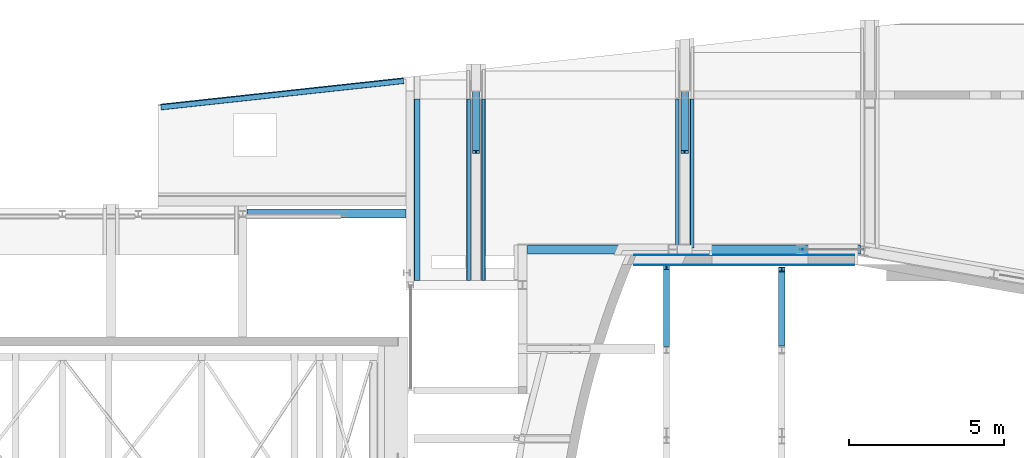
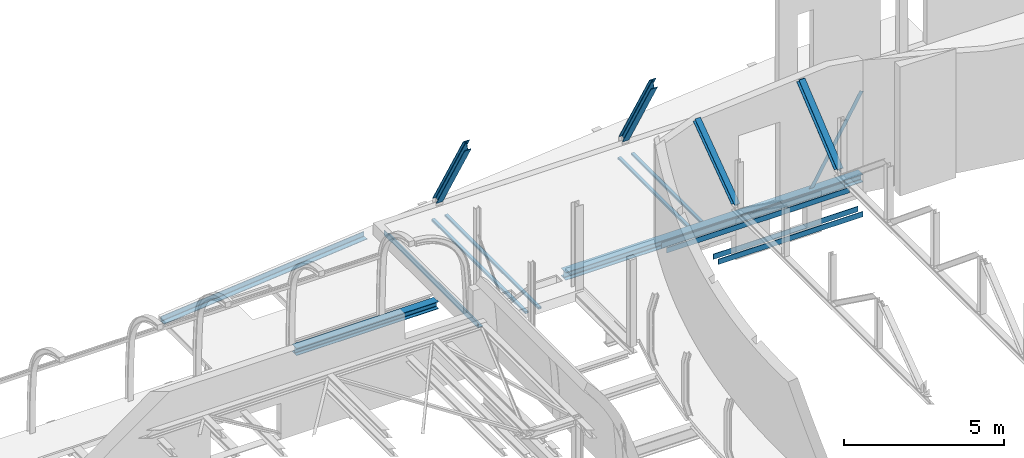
# One storey, part 24 of 38: 17 beams.
"""IFC2X3 building model written with IfcOpenShell, lengths in millimetres."""

from ifc_helpers import new_model, entity, si_unit, converted_unit, derived_unit, direction, frame, frame_2d, origin, origin_2d_with_axis, place, context, subcontext, project, spatial, polyline, circle_curve, parameter, trimmed, segment, composite_curve, rectangle, i_section, outline, extrude, clip, halfspace, material, type_object, element, save


model = new_model("IFC2X3")

# Units and contexts
model_context = context("Model", 3, precision=0.01, world=origin(), true_north=direction((6.12303176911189e-17, 1.0)))
body_context = subcontext(model_context, "Body", "Model", "MODEL_VIEW")
ifc_project = project(units=[si_unit("LENGTHUNIT", "METRE", prefix="MILLI"), si_unit("AREAUNIT", "SQUARE_METRE", prefix="MILLI"), si_unit("VOLUMEUNIT", "CUBIC_METRE"), converted_unit("PLANEANGLEUNIT", "DEGREE", entity("IfcRatioMeasure", 0.0174532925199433), si_unit("PLANEANGLEUNIT", "RADIAN"), dimensions=[0, 0, 0, 0, 0, 0, 0]), si_unit("MASSUNIT", "GRAM", prefix="KILO"), derived_unit("MASSDENSITYUNIT", [(si_unit("MASSUNIT", "GRAM", prefix="KILO"), 1), (si_unit("LENGTHUNIT", "METRE"), -3)]), derived_unit("MOMENTOFINERTIAUNIT", [(si_unit("LENGTHUNIT", "METRE"), 4)]), si_unit("TIMEUNIT", "SECOND"), si_unit("FREQUENCYUNIT", "HERTZ"), si_unit("THERMODYNAMICTEMPERATUREUNIT", "DEGREE_CELSIUS"), derived_unit("THERMALTRANSMITTANCEUNIT", [(si_unit("MASSUNIT", "GRAM", prefix="KILO"), 1), (si_unit("THERMODYNAMICTEMPERATUREUNIT", "KELVIN"), -1), (si_unit("TIMEUNIT", "SECOND"), -3)]), derived_unit("VOLUMETRICFLOWRATEUNIT", [(si_unit("LENGTHUNIT", "METRE"), 3), (si_unit("TIMEUNIT", "SECOND"), -1)]), si_unit("ELECTRICCURRENTUNIT", "AMPERE"), si_unit("ELECTRICVOLTAGEUNIT", "VOLT"), si_unit("POWERUNIT", "WATT"), si_unit("FORCEUNIT", "NEWTON", prefix="KILO"), si_unit("ILLUMINANCEUNIT", "LUX"), si_unit("LUMINOUSFLUXUNIT", "LUMEN"), si_unit("LUMINOUSINTENSITYUNIT", "CANDELA"), derived_unit("USERDEFINED", [(si_unit("MASSUNIT", "GRAM", prefix="KILO"), -1), (si_unit("LENGTHUNIT", "METRE"), -2), (si_unit("TIMEUNIT", "SECOND"), 3), (si_unit("LUMINOUSFLUXUNIT", "LUMEN"), 1)]), derived_unit("LINEARVELOCITYUNIT", [(si_unit("LENGTHUNIT", "METRE"), 1), (si_unit("TIMEUNIT", "SECOND"), -1)]), si_unit("PRESSUREUNIT", "PASCAL"), derived_unit("USERDEFINED", [(si_unit("LENGTHUNIT", "METRE"), -2), (si_unit("MASSUNIT", "GRAM", prefix="KILO"), 1), (si_unit("TIMEUNIT", "SECOND"), -2)]), derived_unit("LINEARFORCEUNIT", [(si_unit("MASSUNIT", "GRAM", prefix="KILO"), 1), (si_unit("LENGTHUNIT", "METRE"), 1), (si_unit("TIMEUNIT", "SECOND"), -2), (si_unit("LENGTHUNIT", "METRE"), -1)]), derived_unit("PLANARFORCEUNIT", [(si_unit("MASSUNIT", "GRAM", prefix="KILO"), 1), (si_unit("LENGTHUNIT", "METRE"), 1), (si_unit("TIMEUNIT", "SECOND"), -2), (si_unit("LENGTHUNIT", "METRE"), -2)])], contexts=[model_context])

# Site, building, storey
site_placement = place(None, origin())
site = spatial("IfcSite", under=ifc_project, at=site_placement, Name="Theater aan de Parade", CompositionType="ELEMENT")
building_placement = place(site_placement, origin())
building = spatial("IfcBuilding", under=site, at=building_placement, Name="Theater aan de Parade", CompositionType="ELEMENT")
storey_placement = place(building_placement, frame((0.0, 0.0, 12480.0)))
storey = spatial("IfcBuildingStorey", under=building, at=storey_placement, Name="03 derde verdieping", CompositionType="ELEMENT", Elevation=12480.0)

# Beams
ifc_material_1 = material(Name="00_PBT_MAT_staal_S355")
beam_type_1 = type_object("IfcBeamType", Name="28_PBT_SF_staal_H-profiel:S355_HE220B", PredefinedType="NOTDEFINED")
beam_1_placement = place(storey_placement, frame((49335.0, 41150.0, 2690.0), z_axis=(0.0, -0.636264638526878, 0.771470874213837), x_axis=(0.0, 0.771470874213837, 0.636264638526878)))
element("IfcBeam", 1, at=beam_1_placement, inside=storey, type_object=beam_type_1, material=ifc_material_1, Name="28_PBT_SF_staal_H-profiel:S355_HE220B", ObjectType="28_PBT_SF_staal_H-profiel:S355_HE220B", context=body_context, shape_type="Clipping", body=[
    clip(clip(clip(extrude(outline(composite_curve([segment(polyline([(-110.0, -94.0), (-110.0, -110.0)]), True, "CONTINUOUS"), segment(polyline([(-110.0, -110.0), (110.0, -110.0)]), True, "CONTINUOUS"), segment(polyline([(110.0, -110.0), (110.0, -94.0)]), True, "CONTINUOUS"), segment(polyline([(110.0, -94.0), (22.7500000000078, -94.0)]), True, "CONTINUOUS"), segment(trimmed(circle_curve(frame_2d((22.7500000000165, -76.0), x_axis=(-1.0, 0.0)), 18.0000000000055), [parameter(0.0)], [parameter(89.9999999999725)], True, "PARAMETER"), False, "CONTINUOUS"), segment(polyline([(4.75000000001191, -76.0), (4.75000000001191, 76.0)]), True, "CONTINUOUS"), segment(trimmed(circle_curve(frame_2d((22.7500000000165, 76.0), x_axis=(0.0, 1.0)), 18.0000000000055), [parameter(0.0)], [parameter(89.9999999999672)], True, "PARAMETER"), False, "CONTINUOUS"), segment(polyline([(22.7500000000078, 94.0), (110.0, 94.0)]), True, "CONTINUOUS"), segment(polyline([(110.0, 94.0), (110.0, 110.0)]), True, "CONTINUOUS"), segment(polyline([(110.0, 110.0), (-110.0, 110.0)]), True, "CONTINUOUS"), segment(polyline([(-110.0, 110.0), (-110.0, 94.0)]), True, "CONTINUOUS"), segment(polyline([(-110.0, 94.0), (-22.7499999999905, 94.0)]), True, "CONTINUOUS"), segment(trimmed(circle_curve(frame_2d((-22.7499999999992, 76.0), x_axis=(1.0, 0.0)), 18.0000000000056), [parameter(0.0)], [parameter(89.9999999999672)], True, "PARAMETER"), False, "CONTINUOUS"), segment(polyline([(-4.74999999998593, 76.0), (-4.74999999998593, -76.0)]), True, "CONTINUOUS"), segment(trimmed(circle_curve(frame_2d((-22.7499999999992, -76.0), x_axis=(0.0, -1.0)), 18.0000000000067), [parameter(0.0)], [parameter(89.9999999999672)], True, "PARAMETER"), False, "CONTINUOUS"), segment(polyline([(-22.7499999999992, -94.0), (-110.0, -94.0)]), True, "CONTINUOUS")], self_intersect=False)), frame((179.148262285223, 0.0, 0.0), z_axis=(-1.0, 0.0, 0.0), x_axis=(0.0, 1.0, 0.0)), (0.0, 0.0, -1.0), 3195.32442237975), halfspace(frame((-13652.0404014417, -130.0, 11427.9240420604), z_axis=(-0.636264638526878, 0.0, -0.771470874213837), x_axis=(0.771470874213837, 0.0, -0.636264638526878)), False)), halfspace(frame((161.778237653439, 130.0, -0.303021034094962), z_axis=(-0.771470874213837, 0.0, 0.636264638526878), x_axis=(0.636264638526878, 0.0, 0.771470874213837)), False)), halfspace(frame((-14307.9859475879, 170.0, 14678.0207594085), z_axis=(0.636264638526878, 0.0, 0.771470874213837), x_axis=(0.771470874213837, 0.0, -0.636264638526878)), False)),
])
beam_type_2 = type_object("IfcBeamType", Name="28_PBT_SF_staal_H-profiel (void):S355_HE300B", PredefinedType="NOTDEFINED")
beam_2_placement = place(storey_placement, frame((40963.8581275, 44395.0, 0.0)))
element("IfcBeam", 2, at=beam_2_placement, inside=storey, type_object=beam_type_2, material=ifc_material_1, Name="28_PBT_SF_staal_H-profiel (void):S355_HE300B", ObjectType="28_PBT_SF_staal_H-profiel (void):S355_HE300B", context=body_context, shape_type="SweptSolid", body=[
    extrude(i_section(OverallWidth=300.000000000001, OverallDepth=300.000000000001, WebThickness=10.9999999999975, FlangeThickness=18.9999999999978, FilletRadius=27.0000000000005, at=frame_2d((0.0, 0.0), x_axis=(0.0, 1.0))), frame((162.699999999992, 0.0, -115.0), z_axis=(1.0, 0.0, 0.0), x_axis=(0.0, 0.0, -1.0)), (0.0, 0.0, 1.0), 10752.6573067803),
])
beam_type_3 = type_object("IfcBeamType", Name="28_PBT_SF_staal_H-profiel (void):S355_HE280B", PredefinedType="NOTDEFINED")
beam_3_placement = place(storey_placement, frame((32073.0224747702, 45558.3619328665, 0.0)))
element("IfcBeam", 3, at=beam_3_placement, inside=storey, type_object=beam_type_3, material=ifc_material_1, Name="28_PBT_SF_staal_H-profiel (void):S355_HE280B", ObjectType="28_PBT_SF_staal_H-profiel (void):S355_HE280B", context=body_context, shape_type="SweptSolid", body=[
    extrude(outline(composite_curve([segment(polyline([(122.0, -140.0), (140.0, -140.0)]), True, "CONTINUOUS"), segment(polyline([(140.0, -140.0), (140.0, 140.0)]), True, "CONTINUOUS"), segment(polyline([(140.0, 140.0), (122.0, 140.0)]), True, "CONTINUOUS"), segment(polyline([(122.0, 140.0), (122.0, 29.2500000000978)]), True, "CONTINUOUS"), segment(trimmed(circle_curve(frame_2d((98.0, 29.2500000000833), x_axis=(1.0, 0.0)), 24.0000000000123), [parameter(270.000000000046)], [parameter(0.0)], True, "PARAMETER"), False, "CONTINUOUS"), segment(polyline([(98.0, 5.25000000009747), (-98.0, 5.24999999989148)]), True, "CONTINUOUS"), segment(trimmed(circle_curve(frame_2d((-98.0, 29.2499999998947), x_axis=(0.0, -1.0)), 24.0000000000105), [parameter(270.000000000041)], [parameter(0.0)], True, "PARAMETER"), False, "CONTINUOUS"), segment(polyline([(-122.0, 29.2499999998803), (-122.0, 140.0)]), True, "CONTINUOUS"), segment(polyline([(-122.0, 140.0), (-140.0, 140.0)]), True, "CONTINUOUS"), segment(polyline([(-140.0, 140.0), (-140.0, -140.0)]), True, "CONTINUOUS"), segment(polyline([(-140.0, -140.0), (-122.0, -140.0)]), True, "CONTINUOUS"), segment(polyline([(-122.0, -140.0), (-122.0, -29.2500000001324)]), True, "CONTINUOUS"), segment(trimmed(circle_curve(frame_2d((-98.0, -29.250000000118), x_axis=(-1.0, 0.0)), 24.0000000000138), [parameter(270.000000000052)], [parameter(0.0)], True, "PARAMETER"), False, "CONTINUOUS"), segment(polyline([(-98.0, -5.2500000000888), (98.0, -5.24999999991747)]), True, "CONTINUOUS"), segment(trimmed(circle_curve(frame_2d((98.0, -29.2499999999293), x_axis=(0.0, 1.0)), 24.0000000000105), [parameter(270.000000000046)], [parameter(0.0)], True, "PARAMETER"), False, "CONTINUOUS"), segment(polyline([(122.0, -29.2499999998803), (122.0, -140.0)]), True, "CONTINUOUS")], self_intersect=False)), frame((0.0, 0.0, -545.0), z_axis=(1.0, 0.0, 0.0), x_axis=(0.0, 0.0, -1.0)), (0.0, 0.0, 1.0), 5130.8356993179),
])
beam_type_4 = type_object("IfcBeamType", Name="28_PBT_SF_staal_L-profiel:S355_L200x200x20", PredefinedType="NOTDEFINED")
beam_4_placement = place(storey_placement, frame((37510.6581300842, 43400.0, 0.0), z_axis=(0.0, 0.0, 1.0), x_axis=(0.0, 1.0, 0.0)))
element("IfcBeam", 4, at=beam_4_placement, inside=storey, type_object=beam_type_4, material=ifc_material_1, Name="28_PBT_SF_staal_L-profiel:S355_L200x200x20", ObjectType="28_PBT_SF_staal_L-profiel:S355_L200x200x20", context=body_context, shape_type="SweptSolid", body=[
    extrude(outline(composite_curve([segment(polyline([(64.5555555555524, -124.444444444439), (75.5555555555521, -124.444444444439)]), True, "CONTINUOUS"), segment(polyline([(75.5555555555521, -124.444444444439), (75.5555555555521, 75.5555555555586)]), True, "CONTINUOUS"), segment(polyline([(75.5555555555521, 75.5555555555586), (-124.444444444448, 75.5555555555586)]), True, "CONTINUOUS"), segment(polyline([(-124.444444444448, 75.5555555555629), (-124.444444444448, 64.5555555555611)]), True, "CONTINUOUS"), segment(trimmed(circle_curve(frame_2d((-115.44444444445, 64.5555555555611), x_axis=(-1.0, 0.0)), 8.99999999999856), [parameter(0.0)], [parameter(90.0000000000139)], True, "PARAMETER"), True, "CONTINUOUS"), segment(polyline([(-115.444444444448, 55.5555555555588), (37.5555555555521, 55.5555555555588)]), True, "CONTINUOUS"), segment(trimmed(circle_curve(frame_2d((37.5555555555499, 37.5555555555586), x_axis=(0.0, 1.0)), 18.0000000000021), [parameter(270.000000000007)], [parameter(0.0)], True, "PARAMETER"), False, "CONTINUOUS"), segment(polyline([(55.5555555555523, 37.5555555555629), (55.5555555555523, -115.444444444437)]), True, "CONTINUOUS"), segment(trimmed(circle_curve(frame_2d((64.5555555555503, -115.444444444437), x_axis=(-1.0, 0.0)), 8.99999999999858), [parameter(0.0)], [parameter(90.0000000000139)], True, "PARAMETER"), True, "CONTINUOUS")], self_intersect=False)), frame((0.0, -18.7555555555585, -209.444444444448), z_axis=(1.0, 0.0, 0.0), x_axis=(0.0, 0.0, -1.0)), (0.0, 0.0, 1.0), 5861.99799087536),
])
beam_5_placement = place(storey_placement, frame((29283.1817501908, 49039.5940127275, 0.0), z_axis=(0.0, 0.0, 1.0), x_axis=(0.994164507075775, 0.107874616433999, 0.0)))
element("IfcBeam", 5, at=beam_5_placement, inside=storey, type_object=beam_type_4, material=ifc_material_1, Name="28_PBT_SF_staal_L-profiel:S355_L200x200x20", ObjectType="28_PBT_SF_staal_L-profiel:S355_L200x200x20", context=body_context, shape_type="SweptSolid", body=[
    extrude(outline(composite_curve([segment(polyline([(64.5555555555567, -124.444444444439), (75.5555555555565, -124.444444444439)]), True, "CONTINUOUS"), segment(polyline([(75.5555555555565, -124.444444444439), (75.5555555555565, 75.5555555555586)]), True, "CONTINUOUS"), segment(polyline([(75.5555555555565, 75.5555555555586), (-124.444444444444, 75.5555555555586)]), True, "CONTINUOUS"), segment(polyline([(-124.444444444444, 75.5555555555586), (-124.444444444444, 64.5555555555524)]), True, "CONTINUOUS"), segment(trimmed(circle_curve(frame_2d((-115.444444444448, 64.5555555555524), x_axis=(-1.0, 0.0)), 8.99999999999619), [parameter(0.0)], [parameter(90.0000000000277)], True, "PARAMETER"), True, "CONTINUOUS"), segment(polyline([(-115.444444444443, 55.5555555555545), (37.5555555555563, 55.5555555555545)]), True, "CONTINUOUS"), segment(trimmed(circle_curve(frame_2d((37.5555555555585, 37.5555555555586), x_axis=(0.0, 1.0)), 17.9999999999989), [parameter(269.999999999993)], [parameter(0.0)], True, "PARAMETER"), False, "CONTINUOUS"), segment(polyline([(55.5555555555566, 37.5555555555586), (55.5555555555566, -115.444444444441)]), True, "CONTINUOUS"), segment(trimmed(circle_curve(frame_2d((64.5555555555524, -115.444444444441), x_axis=(-1.0, 0.0)), 8.99999999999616), [parameter(0.0)], [parameter(90.0000000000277)], True, "PARAMETER"), True, "CONTINUOUS")], self_intersect=False)), frame((0.0, -18.7555555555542, -549.444444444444), z_axis=(1.0, 0.0, 0.0), x_axis=(0.0, 0.0, -1.0)), (0.0, 0.0, 1.0), 7880.0),
])
ifc_material_2 = material(Name="00_PBT_MAT_staal_S235")
beam_type_5 = type_object("IfcBeamType", Name="28_PBT_SF_staal_koker:S235_K80x120x6.3", PredefinedType="NOTDEFINED")
beam_6_placement = place(storey_placement, frame((45899.0610079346, 44441.9749304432, 0.0), z_axis=(0.0, 0.0, 1.0), x_axis=(0.0, 1.0, 0.0)))
element("IfcBeam", 6, at=beam_6_placement, inside=storey, type_object=beam_type_5, material=ifc_material_2, Name="28_PBT_SF_staal_koker:S235_K80x120x6.3", ObjectType="28_PBT_SF_staal_koker:S235_K80x120x6.3", context=body_context, shape_type="SweptSolid", body=[
    extrude(outline(composite_curve([segment(trimmed(circle_curve(frame_2d((-50.5500000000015, -30.5499999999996), x_axis=(1.0, 0.0)), 9.45), [parameter(180.0)], [parameter(270.0)], True, "PARAMETER"), True, "CONTINUOUS"), segment(polyline([(-50.5500000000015, -40.0), (50.5500000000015, -40.0)]), True, "CONTINUOUS"), segment(trimmed(circle_curve(frame_2d((50.5500000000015, -30.5499999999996), x_axis=(1.0, 0.0)), 9.45), [parameter(270.0)], [parameter(0.0)], True, "PARAMETER"), True, "CONTINUOUS"), segment(polyline([(60.0, -30.5499999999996), (60.0, 30.5499999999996)]), True, "CONTINUOUS"), segment(trimmed(circle_curve(frame_2d((50.5500000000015, 30.5499999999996), x_axis=(1.0, 0.0)), 9.45), [parameter(3.56222124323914e-13)], [parameter(90.0000000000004)], True, "PARAMETER"), True, "CONTINUOUS"), segment(polyline([(50.5500000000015, 40.0), (-50.5500000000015, 40.0)]), True, "CONTINUOUS"), segment(trimmed(circle_curve(frame_2d((-50.5500000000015, 30.5499999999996), x_axis=(1.0, 0.0)), 9.45), [parameter(90.0000000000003)], [parameter(180.0)], True, "PARAMETER"), True, "CONTINUOUS"), segment(polyline([(-60.0, 30.5499999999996), (-60.0, -30.5499999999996)]), True, "CONTINUOUS")], self_intersect=False), holes=[composite_curve([segment(trimmed(circle_curve(frame_2d((47.3999999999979, 27.4000000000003), x_axis=(1.0, 0.0)), 6.3), [parameter(5.08888749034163e-14)], [parameter(90.0000000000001)], True, "PARAMETER"), False, "CONTINUOUS"), segment(polyline([(53.6999999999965, 27.4000000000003), (53.6999999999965, -27.4000000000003)]), True, "CONTINUOUS"), segment(trimmed(circle_curve(frame_2d((47.3999999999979, -27.4000000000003), x_axis=(1.0, 0.0)), 6.3), [parameter(269.999999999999)], [parameter(360.0)], True, "PARAMETER"), False, "CONTINUOUS"), segment(polyline([(47.3999999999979, -33.700000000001), (-47.3999999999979, -33.700000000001)]), True, "CONTINUOUS"), segment(trimmed(circle_curve(frame_2d((-47.3999999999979, -27.4000000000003), x_axis=(1.0, 0.0)), 6.3), [parameter(180.0)], [parameter(270.0)], True, "PARAMETER"), False, "CONTINUOUS"), segment(polyline([(-53.6999999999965, -27.4000000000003), (-53.6999999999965, 27.4000000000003)]), True, "CONTINUOUS"), segment(trimmed(circle_curve(frame_2d((-47.3999999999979, 27.4000000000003), x_axis=(1.0, 0.0)), 6.3), [parameter(89.9999999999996)], [parameter(180.0)], True, "PARAMETER"), False, "CONTINUOUS"), segment(polyline([(-47.3999999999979, 33.6999999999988), (47.3999999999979, 33.6999999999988)]), True, "CONTINUOUS")], self_intersect=False)]), frame((0.0, -60.0, -305.0), z_axis=(1.0, 0.0, 0.0), x_axis=(0.0, 1.0, 0.0)), (0.0, 0.0, 1.0), 4820.00000000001),
])
beam_7_placement = place(storey_placement, frame((46499.0610079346, 44441.9749304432, 0.0), z_axis=(0.0, 0.0, 1.0), x_axis=(0.0, 1.0, 0.0)))
element("IfcBeam", 7, at=beam_7_placement, inside=storey, type_object=beam_type_5, material=ifc_material_2, Name="28_PBT_SF_staal_koker:S235_K80x120x6.3", ObjectType="28_PBT_SF_staal_koker:S235_K80x120x6.3", context=body_context, shape_type="SweptSolid", body=[
    extrude(outline(composite_curve([segment(polyline([(-30.5499999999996, -60.0), (30.5499999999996, -60.0)]), True, "CONTINUOUS"), segment(trimmed(circle_curve(frame_2d((30.5499999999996, -50.5500000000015), x_axis=(0.0, 1.0)), 9.45), [parameter(180.0)], [parameter(270.0)], True, "PARAMETER"), True, "CONTINUOUS"), segment(polyline([(40.0, -50.5500000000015), (40.0, 50.5500000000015)]), True, "CONTINUOUS"), segment(trimmed(circle_curve(frame_2d((30.5499999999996, 50.5500000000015), x_axis=(0.0, 1.0)), 9.45), [parameter(270.0)], [parameter(360.0)], True, "PARAMETER"), True, "CONTINUOUS"), segment(polyline([(30.5499999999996, 60.0), (-30.5499999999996, 60.0)]), True, "CONTINUOUS"), segment(trimmed(circle_curve(frame_2d((-30.5499999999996, 50.5500000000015), x_axis=(0.0, 1.0)), 9.45), [parameter(0.0)], [parameter(90.0000000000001)], True, "PARAMETER"), True, "CONTINUOUS"), segment(polyline([(-40.0, 50.5500000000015), (-40.0, -50.5500000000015)]), True, "CONTINUOUS"), segment(trimmed(circle_curve(frame_2d((-30.5499999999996, -50.5500000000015), x_axis=(0.0, 1.0)), 9.45), [parameter(90.0)], [parameter(180.0)], True, "PARAMETER"), True, "CONTINUOUS")], self_intersect=False), holes=[composite_curve([segment(polyline([(33.6999999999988, 47.3999999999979), (33.6999999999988, -47.3999999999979)]), True, "CONTINUOUS"), segment(trimmed(circle_curve(frame_2d((27.4000000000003, -47.3999999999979), x_axis=(0.0, 1.0)), 6.3), [parameter(180.0)], [parameter(270.0)], True, "PARAMETER"), False, "CONTINUOUS"), segment(polyline([(27.4000000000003, -53.6999999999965), (-27.4000000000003, -53.6999999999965)]), True, "CONTINUOUS"), segment(trimmed(circle_curve(frame_2d((-27.4000000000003, -47.3999999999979), x_axis=(0.0, 1.0)), 6.3), [parameter(90.0)], [parameter(180.0)], True, "PARAMETER"), False, "CONTINUOUS"), segment(polyline([(-33.700000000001, -47.3999999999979), (-33.700000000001, 47.3999999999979)]), True, "CONTINUOUS"), segment(trimmed(circle_curve(frame_2d((-27.4000000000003, 47.3999999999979), x_axis=(0.0, 1.0)), 6.3), [parameter(4.07110999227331e-13)], [parameter(90.0000000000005)], True, "PARAMETER"), False, "CONTINUOUS"), segment(polyline([(-27.4000000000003, 53.6999999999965), (27.4000000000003, 53.6999999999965)]), True, "CONTINUOUS"), segment(trimmed(circle_curve(frame_2d((27.4000000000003, 47.3999999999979), x_axis=(0.0, 1.0)), 6.3), [parameter(270.0)], [parameter(360.0)], True, "PARAMETER"), False, "CONTINUOUS")], self_intersect=False)]), frame((0.0, 60.0, -305.0), z_axis=(1.0, 0.0, 0.0), x_axis=(0.0, 0.0, 1.0)), (0.0, 0.0, 1.0), 4820.02306043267),
])
beam_8_placement = place(storey_placement, frame((39162.1672575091, 43400.0, 0.0), z_axis=(0.0, 0.0, 1.0), x_axis=(0.0, 1.0, 0.0)))
element("IfcBeam", 8, at=beam_8_placement, inside=storey, type_object=beam_type_5, material=ifc_material_2, Name="28_PBT_SF_staal_koker:S235_K80x120x6.3", ObjectType="28_PBT_SF_staal_koker:S235_K80x120x6.3", context=body_context, shape_type="SweptSolid", body=[
    extrude(outline(composite_curve([segment(trimmed(circle_curve(frame_2d((-50.5500000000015, -30.5499999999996), x_axis=(1.0, 0.0)), 9.45), [parameter(180.0)], [parameter(270.0)], True, "PARAMETER"), True, "CONTINUOUS"), segment(polyline([(-50.5500000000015, -40.0), (50.5500000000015, -40.0)]), True, "CONTINUOUS"), segment(trimmed(circle_curve(frame_2d((50.5500000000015, -30.5499999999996), x_axis=(1.0, 0.0)), 9.45), [parameter(270.0)], [parameter(0.0)], True, "PARAMETER"), True, "CONTINUOUS"), segment(polyline([(60.0, -30.5499999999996), (60.0, 30.5499999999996)]), True, "CONTINUOUS"), segment(trimmed(circle_curve(frame_2d((50.5500000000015, 30.5499999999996), x_axis=(1.0, 0.0)), 9.45), [parameter(3.56222124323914e-13)], [parameter(90.0000000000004)], True, "PARAMETER"), True, "CONTINUOUS"), segment(polyline([(50.5500000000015, 40.0), (-50.5500000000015, 40.0)]), True, "CONTINUOUS"), segment(trimmed(circle_curve(frame_2d((-50.5500000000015, 30.5499999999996), x_axis=(1.0, 0.0)), 9.45), [parameter(90.0000000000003)], [parameter(180.0)], True, "PARAMETER"), True, "CONTINUOUS"), segment(polyline([(-60.0, 30.5499999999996), (-60.0, -30.5499999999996)]), True, "CONTINUOUS")], self_intersect=False), holes=[composite_curve([segment(trimmed(circle_curve(frame_2d((47.3999999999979, 27.4000000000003), x_axis=(1.0, 0.0)), 6.3), [parameter(5.08888749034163e-14)], [parameter(90.0000000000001)], True, "PARAMETER"), False, "CONTINUOUS"), segment(polyline([(53.6999999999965, 27.4000000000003), (53.6999999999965, -27.4000000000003)]), True, "CONTINUOUS"), segment(trimmed(circle_curve(frame_2d((47.3999999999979, -27.4000000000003), x_axis=(1.0, 0.0)), 6.3), [parameter(269.999999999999)], [parameter(360.0)], True, "PARAMETER"), False, "CONTINUOUS"), segment(polyline([(47.3999999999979, -33.700000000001), (-47.3999999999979, -33.700000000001)]), True, "CONTINUOUS"), segment(trimmed(circle_curve(frame_2d((-47.3999999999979, -27.4000000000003), x_axis=(1.0, 0.0)), 6.3), [parameter(180.0)], [parameter(270.0)], True, "PARAMETER"), False, "CONTINUOUS"), segment(polyline([(-53.6999999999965, -27.4000000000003), (-53.6999999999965, 27.4000000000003)]), True, "CONTINUOUS"), segment(trimmed(circle_curve(frame_2d((-47.3999999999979, 27.4000000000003), x_axis=(1.0, 0.0)), 6.3), [parameter(89.9999999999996)], [parameter(180.0)], True, "PARAMETER"), False, "CONTINUOUS"), segment(polyline([(-47.3999999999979, 33.6999999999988), (47.3999999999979, 33.6999999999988)]), True, "CONTINUOUS")], self_intersect=False)]), frame((0.0, -60.0, -305.0), z_axis=(1.0, 0.0, 0.0), x_axis=(0.0, 1.0, 0.0)), (0.0, 0.0, 1.0), 5861.99799087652),
])
beam_9_placement = place(storey_placement, frame((39762.1672575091, 43400.0, 0.0), z_axis=(0.0, 0.0, 1.0), x_axis=(0.0, 1.0, 0.0)))
element("IfcBeam", 9, at=beam_9_placement, inside=storey, type_object=beam_type_5, material=ifc_material_2, Name="28_PBT_SF_staal_koker:S235_K80x120x6.3", ObjectType="28_PBT_SF_staal_koker:S235_K80x120x6.3", context=body_context, shape_type="SweptSolid", body=[
    extrude(outline(composite_curve([segment(polyline([(-30.5499999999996, -60.0), (30.5499999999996, -60.0)]), True, "CONTINUOUS"), segment(trimmed(circle_curve(frame_2d((30.5499999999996, -50.5500000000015), x_axis=(0.0, 1.0)), 9.45), [parameter(180.0)], [parameter(270.0)], True, "PARAMETER"), True, "CONTINUOUS"), segment(polyline([(40.0, -50.5500000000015), (40.0, 50.5500000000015)]), True, "CONTINUOUS"), segment(trimmed(circle_curve(frame_2d((30.5499999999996, 50.5500000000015), x_axis=(0.0, 1.0)), 9.45), [parameter(270.0)], [parameter(360.0)], True, "PARAMETER"), True, "CONTINUOUS"), segment(polyline([(30.5499999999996, 60.0), (-30.5499999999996, 60.0)]), True, "CONTINUOUS"), segment(trimmed(circle_curve(frame_2d((-30.5499999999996, 50.5500000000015), x_axis=(0.0, 1.0)), 9.45), [parameter(0.0)], [parameter(90.0000000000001)], True, "PARAMETER"), True, "CONTINUOUS"), segment(polyline([(-40.0, 50.5500000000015), (-40.0, -50.5500000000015)]), True, "CONTINUOUS"), segment(trimmed(circle_curve(frame_2d((-30.5499999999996, -50.5500000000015), x_axis=(0.0, 1.0)), 9.45), [parameter(90.0)], [parameter(180.0)], True, "PARAMETER"), True, "CONTINUOUS")], self_intersect=False), holes=[composite_curve([segment(polyline([(33.6999999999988, 47.3999999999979), (33.6999999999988, -47.3999999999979)]), True, "CONTINUOUS"), segment(trimmed(circle_curve(frame_2d((27.4000000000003, -47.3999999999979), x_axis=(0.0, 1.0)), 6.3), [parameter(180.0)], [parameter(270.0)], True, "PARAMETER"), False, "CONTINUOUS"), segment(polyline([(27.4000000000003, -53.6999999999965), (-27.4000000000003, -53.6999999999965)]), True, "CONTINUOUS"), segment(trimmed(circle_curve(frame_2d((-27.4000000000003, -47.3999999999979), x_axis=(0.0, 1.0)), 6.3), [parameter(90.0)], [parameter(180.0)], True, "PARAMETER"), False, "CONTINUOUS"), segment(polyline([(-33.700000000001, -47.3999999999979), (-33.700000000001, 47.3999999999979)]), True, "CONTINUOUS"), segment(trimmed(circle_curve(frame_2d((-27.4000000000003, 47.3999999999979), x_axis=(0.0, 1.0)), 6.3), [parameter(4.07110999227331e-13)], [parameter(90.0000000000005)], True, "PARAMETER"), False, "CONTINUOUS"), segment(polyline([(-27.4000000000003, 53.6999999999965), (27.4000000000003, 53.6999999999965)]), True, "CONTINUOUS"), segment(trimmed(circle_curve(frame_2d((27.4000000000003, 47.3999999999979), x_axis=(0.0, 1.0)), 6.3), [parameter(270.0)], [parameter(360.0)], True, "PARAMETER"), False, "CONTINUOUS")], self_intersect=False)]), frame((0.0, 60.0, -305.0), z_axis=(1.0, 0.0, 0.0), x_axis=(0.0, 0.0, 1.0)), (0.0, 0.0, 1.0), 5861.99799087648),
])
beam_type_6 = type_object("IfcBeamType", Name="28_PBT_SF_staal_H-profiel:S355_HE200B", PredefinedType="NOTDEFINED")
beam_10_placement = place(storey_placement, frame((45610.0, 41150.0, 2680.0), z_axis=(0.0, -0.585185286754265, 0.810899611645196), x_axis=(0.0, 0.810899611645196, 0.585185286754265)))
element("IfcBeam", 10, at=beam_10_placement, inside=storey, type_object=beam_type_6, material=ifc_material_1, Name="28_PBT_SF_staal_H-profiel:S355_HE200B", ObjectType="28_PBT_SF_staal_H-profiel:S355_HE200B", context=body_context, shape_type="Clipping", body=[
    clip(clip(extrude(i_section(OverallWidth=199.999999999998, OverallDepth=199.999999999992, WebThickness=8.99999999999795, FlangeThickness=14.9999999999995, FilletRadius=17.9999999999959, at=frame_2d((1.74793512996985e-12, -4.33431068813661e-12), x_axis=(0.0, 1.0))), frame((163.475689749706, 0.0, 0.0), z_axis=(1.0, 0.0, 0.0), x_axis=(0.0, 0.0, -1.0)), (0.0, 0.0, 1.0), 3113.08898908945), halfspace(frame((-14373.7141128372, -120.0, 10520.7671730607), z_axis=(-0.585185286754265, 0.0, -0.810899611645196), x_axis=(0.810899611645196, 0.0, -0.585185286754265)), False)), halfspace(frame((147.500131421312, 120.0, 7.87408602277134), z_axis=(-0.810899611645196, 0.0, 0.585185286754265), x_axis=(0.585185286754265, 0.0, 0.810899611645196)), False)),
])
beam_type_7 = type_object("IfcBeamType", Name="28_PBT_SF_staal_H-profiel:S355_HE240B", PredefinedType="NOTDEFINED")
beam_11_placement = place(storey_placement, frame((46197.668810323, 47648.6364563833, 3540.68272740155), z_axis=(1.0, 0.0, 0.0), x_axis=(0.0, 0.499999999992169, -0.86602540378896)))
element("IfcBeam", 11, at=beam_11_placement, inside=storey, type_object=beam_type_7, material=ifc_material_1, Name="28_PBT_SF_staal_H-profiel:S355_HE240B", ObjectType="28_PBT_SF_staal_H-profiel:S355_HE240B", context=body_context, shape_type="Clipping", body=[
    clip(clip(extrude(i_section(OverallWidth=239.999999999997, OverallDepth=240.000000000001, WebThickness=9.99999999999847, FlangeThickness=17.0000000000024, FilletRadius=21.0000000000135, at=frame_2d((0.0, 5.40012479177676e-13), x_axis=(1.0, 0.0))), frame((-114.681708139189, -120.0, 0.0), z_axis=(1.0, 0.0, 0.0), x_axis=(0.0, 0.0, -1.0)), (0.0, 0.0, 1.0), 3841.40477718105), halfspace(frame((3727.36959528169, 2.4128687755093, 410.847507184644), z_axis=(0.965925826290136, -0.258819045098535, 0.0), x_axis=(0.258819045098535, 0.965925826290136, 0.0)), False)), halfspace(frame((-114.681708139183, 0.0, 1880.29037503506), z_axis=(-0.752335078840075, -0.658780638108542, 0.0), x_axis=(-0.658780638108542, 0.752335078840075, 0.0)), False)),
])
beam_12_placement = place(storey_placement, frame((39462.1672575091, 47571.1364563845, 3674.91666498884), z_axis=(1.0, 0.0, 0.0), x_axis=(0.0, 0.499999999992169, -0.86602540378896)))
element("IfcBeam", 12, at=beam_12_placement, inside=storey, type_object=beam_type_7, material=ifc_material_1, Name="28_PBT_SF_staal_H-profiel:S355_HE240B", ObjectType="28_PBT_SF_staal_H-profiel:S355_HE240B", context=body_context, shape_type="Clipping", body=[
    clip(clip(extrude(i_section(OverallWidth=239.999999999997, OverallDepth=239.999999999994, WebThickness=9.99999999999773, FlangeThickness=17.0000000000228, FilletRadius=21.0000000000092, at=frame_2d((0.0, 5.37170308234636e-12), x_axis=(1.0, 0.0))), frame((40.3182918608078, -120.0, 0.0), z_axis=(1.0, 0.0, 0.0), x_axis=(0.0, 0.0, -1.0)), (0.0, 0.0, 1.0), 3841.40477718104), halfspace(frame((3882.3695952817, 2.41286877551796, 7146.34905999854), z_axis=(0.965925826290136, -0.258819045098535, 0.0), x_axis=(0.258819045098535, 0.965925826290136, 0.0)), False)), halfspace(frame((40.3182918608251, 0.0, 8615.79192784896), z_axis=(-0.752335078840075, -0.658780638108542, 0.0), x_axis=(-0.658780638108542, 0.752335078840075, 0.0)), False)),
])
ifc_material_3 = material(Name="00_PBT_MAT_staal")
beam_type_8 = type_object("IfcBeamType", Name="28_PBT_SF_staal_strip:strip 10x150", PredefinedType="NOTDEFINED")
beam_13_placement = place(storey_placement, frame((49939.5385523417, 44395.0, -237.565804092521), z_axis=(0.862737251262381, 0.0, -0.505652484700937), x_axis=(0.505652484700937, 0.0, 0.862737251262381)))
element("IfcBeam", 13, at=beam_13_placement, inside=storey, type_object=beam_type_8, material=ifc_material_3, Name="28_PBT_SF_staal_strip:strip 10x150", ObjectType="28_PBT_SF_staal_strip:strip 10x150", context=body_context, shape_type="SweptSolid", body=[
    extrude(rectangle(XDim=149.999999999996, YDim=9.99999999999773, at=origin_2d_with_axis()), frame((147.581027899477, 0.0, 0.0), z_axis=(1.0, 0.0, 0.0), x_axis=(0.0, 0.0, -1.0)), (0.0, 0.0, 1.0), 3742.19871328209),
])
beam_type_9 = type_object("IfcBeamType", Name="28_PBT_SF_staal_strip:trekstrip 20x200", PredefinedType="NOTDEFINED")
beam_14_placement = place(storey_placement, frame((46439.0610079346, 44210.0, 0.0)))
element("IfcBeam", 14, at=beam_14_placement, inside=storey, type_object=beam_type_9, material=ifc_material_3, Name="28_PBT_SF_staal_strip:trekstrip 20x200", ObjectType="28_PBT_SF_staal_strip:trekstrip 20x200", context=body_context, shape_type="SweptSolid", body=[
    extrude(rectangle(XDim=200.0, YDim=19.9999999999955, at=frame_2d((1.08713038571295e-12, -2.07910133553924e-10), x_axis=(1.0, 0.0))), frame((0.0, 10.0, -1200.0), z_axis=(1.0, 0.0, 0.0), x_axis=(0.0, 0.0, -1.0)), (0.0, 0.0, 1.0), 5230.93899206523),
])
beam_15_placement = place(storey_placement, frame((44570.0, 44210.0, 0.0)))
element("IfcBeam", 15, at=beam_15_placement, inside=storey, type_object=beam_type_9, material=ifc_material_3, Name="28_PBT_SF_staal_strip:trekstrip 20x200", ObjectType="28_PBT_SF_staal_strip:trekstrip 20x200", context=body_context, shape_type="SweptSolid", body=[
    extrude(rectangle(XDim=199.999999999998, YDim=19.9999999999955, at=frame_2d((1.08002495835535e-12, -2.59888111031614e-10), x_axis=(1.0, 0.0))), frame((0.0, 10.0, -110.0), z_axis=(1.0, 0.0, 0.0), x_axis=(0.0, 0.0, -1.0)), (0.0, 0.0, 1.0), 6614.68945200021),
])
beam_16_placement = place(storey_placement, frame((46439.0610079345, 43910.0, 0.0)))
element("IfcBeam", 16, at=beam_16_placement, inside=storey, type_object=beam_type_9, material=ifc_material_3, Name="28_PBT_SF_staal_strip:trekstrip 20x200", ObjectType="28_PBT_SF_staal_strip:trekstrip 20x200", context=body_context, shape_type="SweptSolid", body=[
    extrude(rectangle(XDim=199.999999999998, YDim=19.9999999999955, at=frame_2d((1.08713038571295e-12, 0.0), x_axis=(1.0, 0.0))), frame((0.0, -10.0, -1200.0), z_axis=(1.0, 0.0, 0.0), x_axis=(0.0, 0.0, -1.0)), (0.0, 0.0, 1.0), 5230.93899206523),
])
beam_17_placement = place(storey_placement, frame((44570.0, 43910.0, 0.0)))
element("IfcBeam", 17, at=beam_17_placement, inside=storey, type_object=beam_type_9, material=ifc_material_3, Name="28_PBT_SF_staal_strip:trekstrip 20x200", ObjectType="28_PBT_SF_staal_strip:trekstrip 20x200", context=body_context, shape_type="SweptSolid", body=[
    extrude(rectangle(XDim=199.999999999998, YDim=19.9999999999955, at=frame_2d((1.08713038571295e-12, 4.33164615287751e-12), x_axis=(1.0, 0.0))), frame((0.0, -10.0, -110.0), z_axis=(1.0, 0.0, 0.0), x_axis=(0.0, 0.0, -1.0)), (0.0, 0.0, 1.0), 6614.68945200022),
])

save(model, "model.ifc")
